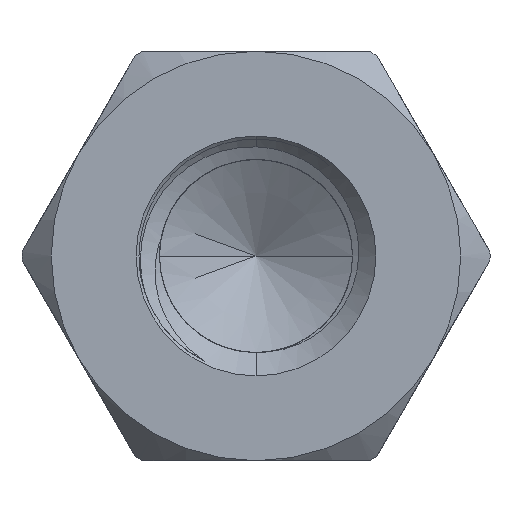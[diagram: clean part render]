
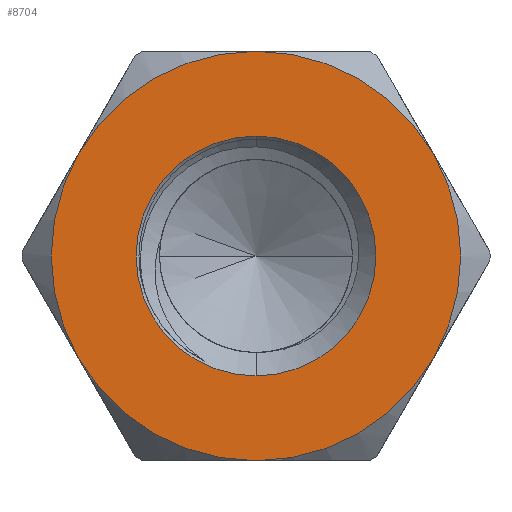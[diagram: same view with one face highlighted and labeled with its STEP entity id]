
A CAD part, front view. The second image highlights one B-rep face of the part: STEP entity #8704.
In plain terms, the highlighted planar face has unit normal (0, -1, 0).
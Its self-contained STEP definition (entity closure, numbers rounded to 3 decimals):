
#88 = DIRECTION ( 'NONE',  ( 0., -1., 0. ) ) ;
#146 = CARTESIAN_POINT ( 'NONE',  ( 3.031, 0., -1.75 ) ) ;
#205 = VERTEX_POINT ( 'NONE', #10510 ) ;
#245 = VERTEX_POINT ( 'NONE', #146 ) ;
#302 = CIRCLE ( 'NONE', #8631, 3.5 ) ;
#304 = CARTESIAN_POINT ( 'NONE',  ( 0., 0., 0. ) ) ;
#418 = VERTEX_POINT ( 'NONE', #7581 ) ;
#443 = AXIS2_PLACEMENT_3D ( 'NONE', #6492, #7298, #9051 ) ;
#633 = DIRECTION ( 'NONE',  ( 0., -1., 0. ) ) ;
#823 = CARTESIAN_POINT ( 'NONE',  ( 0., 0., 0. ) ) ;
#961 = EDGE_CURVE ( 'NONE', #418, #4940, #302, .T. ) ;
#1247 = EDGE_CURVE ( 'NONE', #3071, #4744, #5371, .T. ) ;
#1476 = DIRECTION ( 'NONE',  ( 0., 0., -1. ) ) ;
#1507 = EDGE_CURVE ( 'NONE', #4940, #1624, #8078, .T. ) ;
#1624 = VERTEX_POINT ( 'NONE', #1710 ) ;
#1625 = DIRECTION ( 'NONE',  ( 0., -1., 0. ) ) ;
#1710 = CARTESIAN_POINT ( 'NONE',  ( 0., 0., -3.5 ) ) ;
#1810 = AXIS2_PLACEMENT_3D ( 'NONE', #7153, #633, #9523 ) ;
#1890 = ORIENTED_EDGE ( 'NONE', *, *, #961, .T. ) ;
#2155 = FACE_OUTER_BOUND ( 'NONE', #6360, .T. ) ;
#2374 = EDGE_CURVE ( 'NONE', #8313, #205, #9354, .T. ) ;
#2420 = DIRECTION ( 'NONE',  ( 0., -1., 0. ) ) ;
#2588 = ORIENTED_EDGE ( 'NONE', *, *, #1247, .F. ) ;
#2770 = DIRECTION ( 'NONE',  ( 0., -1., 0. ) ) ;
#3043 = DIRECTION ( 'NONE',  ( 0., 0., 1. ) ) ;
#3046 = CARTESIAN_POINT ( 'NONE',  ( 0., 0., 0. ) ) ;
#3047 = ORIENTED_EDGE ( 'NONE', *, *, #6892, .T. ) ;
#3071 = VERTEX_POINT ( 'NONE', #9562 ) ;
#3453 = AXIS2_PLACEMENT_3D ( 'NONE', #3046, #8861, #1476 ) ;
#3556 = ORIENTED_EDGE ( 'NONE', *, *, #10192, .T. ) ;
#3623 = CARTESIAN_POINT ( 'NONE',  ( -3.031, 0., -1.75 ) ) ;
#3648 = PLANE ( 'NONE',  #8217 ) ;
#3678 = CIRCLE ( 'NONE', #5500, 3.5 ) ;
#3692 = AXIS2_PLACEMENT_3D ( 'NONE', #304, #4480, #7799 ) ;
#3899 = CIRCLE ( 'NONE', #9796, 3.5 ) ;
#4041 = DIRECTION ( 'NONE',  ( 0., 0., 1. ) ) ;
#4305 = DIRECTION ( 'NONE',  ( 0., 0., 1. ) ) ;
#4480 = DIRECTION ( 'NONE',  ( 0., -1., 0. ) ) ;
#4744 = VERTEX_POINT ( 'NONE', #9788 ) ;
#4940 = VERTEX_POINT ( 'NONE', #3623 ) ;
#5340 = AXIS2_PLACEMENT_3D ( 'NONE', #6470, #2420, #4041 ) ;
#5371 = CIRCLE ( 'NONE', #3692, 2.05 ) ;
#5414 = DIRECTION ( 'NONE',  ( 0., 1., 0. ) ) ;
#5450 = EDGE_CURVE ( 'NONE', #4744, #3071, #10203, .T. ) ;
#5500 = AXIS2_PLACEMENT_3D ( 'NONE', #9829, #88, #5776 ) ;
#5776 = DIRECTION ( 'NONE',  ( 0., 0., -1. ) ) ;
#6314 = ORIENTED_EDGE ( 'NONE', *, *, #9699, .T. ) ;
#6360 = EDGE_LOOP ( 'NONE', ( #9013, #6314, #1890, #9444, #3047, #3556 ) ) ;
#6470 = CARTESIAN_POINT ( 'NONE',  ( 0., 0., 0. ) ) ;
#6492 = CARTESIAN_POINT ( 'NONE',  ( 0., 0., 0. ) ) ;
#6750 = CARTESIAN_POINT ( 'NONE',  ( 0., 0., 0. ) ) ;
#6892 = EDGE_CURVE ( 'NONE', #1624, #245, #3678, .T. ) ;
#6958 = CARTESIAN_POINT ( 'NONE',  ( 3.031, 0., 1.75 ) ) ;
#6998 = ORIENTED_EDGE ( 'NONE', *, *, #5450, .F. ) ;
#7153 = CARTESIAN_POINT ( 'NONE',  ( 0., 0., 0. ) ) ;
#7298 = DIRECTION ( 'NONE',  ( 0., -1., 0. ) ) ;
#7320 = DIRECTION ( 'NONE',  ( 0., 0., 1. ) ) ;
#7581 = CARTESIAN_POINT ( 'NONE',  ( -3.031, 0., 1.75 ) ) ;
#7799 = DIRECTION ( 'NONE',  ( 0., 0., -1. ) ) ;
#8078 = CIRCLE ( 'NONE', #443, 3.5 ) ;
#8217 = AXIS2_PLACEMENT_3D ( 'NONE', #9378, #5414, #3043 ) ;
#8272 = EDGE_LOOP ( 'NONE', ( #6998, #2588 ) ) ;
#8313 = VERTEX_POINT ( 'NONE', #6958 ) ;
#8631 = AXIS2_PLACEMENT_3D ( 'NONE', #823, #1625, #7320 ) ;
#8704 = ADVANCED_FACE ( 'NONE', ( #10407, #2155 ), #3648, .F. ) ;
#8861 = DIRECTION ( 'NONE',  ( 0., -1., 0. ) ) ;
#9013 = ORIENTED_EDGE ( 'NONE', *, *, #2374, .T. ) ;
#9051 = DIRECTION ( 'NONE',  ( 0., 0., 1. ) ) ;
#9354 = CIRCLE ( 'NONE', #1810, 3.5 ) ;
#9378 = CARTESIAN_POINT ( 'NONE',  ( 0., 0., 0. ) ) ;
#9444 = ORIENTED_EDGE ( 'NONE', *, *, #1507, .T. ) ;
#9523 = DIRECTION ( 'NONE',  ( 0., 0., 1. ) ) ;
#9562 = CARTESIAN_POINT ( 'NONE',  ( 0., 0., 2.05 ) ) ;
#9699 = EDGE_CURVE ( 'NONE', #205, #418, #9771, .T. ) ;
#9771 = CIRCLE ( 'NONE', #5340, 3.5 ) ;
#9788 = CARTESIAN_POINT ( 'NONE',  ( 0., 0., -2.05 ) ) ;
#9796 = AXIS2_PLACEMENT_3D ( 'NONE', #6750, #2770, #4305 ) ;
#9829 = CARTESIAN_POINT ( 'NONE',  ( 0., 0., 0. ) ) ;
#10192 = EDGE_CURVE ( 'NONE', #245, #8313, #3899, .T. ) ;
#10203 = CIRCLE ( 'NONE', #3453, 2.05 ) ;
#10407 = FACE_BOUND ( 'NONE', #8272, .T. ) ;
#10510 = CARTESIAN_POINT ( 'NONE',  ( 0., 0., 3.5 ) ) ;
